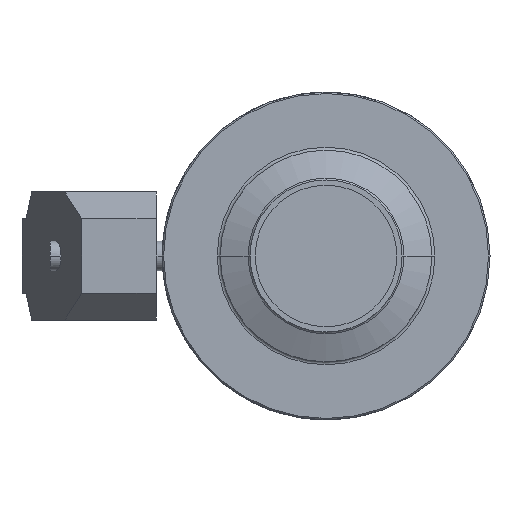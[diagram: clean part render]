
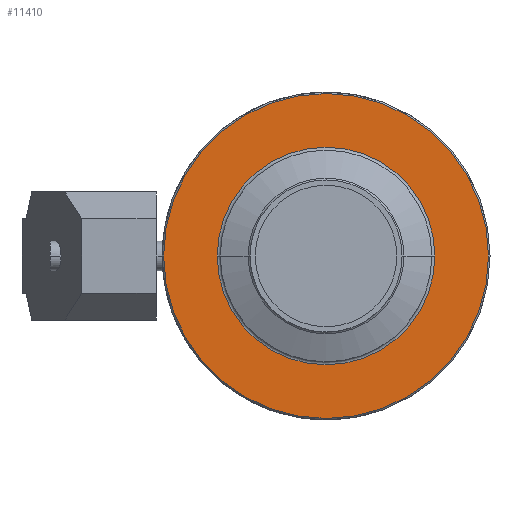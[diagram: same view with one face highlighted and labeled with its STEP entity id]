
A CAD part, left-side view. The second image highlights one B-rep face of the part: STEP entity #11410.
In plain terms, the highlighted planar face has unit normal (-1, 0, 0).
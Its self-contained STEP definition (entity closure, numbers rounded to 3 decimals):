
#10930=CARTESIAN_POINT('',(24.717,-50.188,0.));
#10940=VERTEX_POINT('',#10930);
#11020=CARTESIAN_POINT('',(24.717,58.812,
0.));
#11030=VERTEX_POINT('',#11020);
#11060=CARTESIAN_POINT('',(24.717,4.312,0.));
#11070=DIRECTION('',(1.,0.,0.));
#11080=DIRECTION('',(0.,1.,0.));
#11090=AXIS2_PLACEMENT_3D('',#11060,#11070,#11080);
#11100=CIRCLE('',#11090,54.5);
#11110=EDGE_CURVE('',#10940,#11030,#11100,.T.);
#11160=CARTESIAN_POINT('',(24.717,56.712,0.));
#11170=DIRECTION('',(-1.,0.,0.));
#11180=DIRECTION('',(0.,1.,0.));
#11190=AXIS2_PLACEMENT_3D('',#11160,#11170,#11180);
#11200=PLANE('',#11190);
#11210=CARTESIAN_POINT('',(24.717,4.312,0.));
#11220=DIRECTION('',(1.,0.,0.));
#11230=DIRECTION('',(0.,1.,0.));
#11240=AXIS2_PLACEMENT_3D('',#11210,#11220,#11230);
#11250=CIRCLE('',#11240,36.5);
#11260=CARTESIAN_POINT('',(24.717,40.812,0.));
#11270=VERTEX_POINT('',#11260);
#11280=CARTESIAN_POINT('',(24.717,-32.188,0.));
#11290=VERTEX_POINT('',#11280);
#11300=EDGE_CURVE('',#11270,#11290,#11250,.T.);
#11310=ORIENTED_EDGE('',*,*,#11300,.T.);
#11320=EDGE_CURVE('',#11290,#11270,#11250,.T.);
#11330=ORIENTED_EDGE('',*,*,#11320,.T.);
#11340=EDGE_LOOP('',(#11330,#11310));
#11350=FACE_BOUND('',#11340,.T.);
#11360=EDGE_CURVE('',#11030,#10940,#11100,.T.);
#11370=ORIENTED_EDGE('',*,*,#11360,.F.);
#11380=ORIENTED_EDGE('',*,*,#11110,.F.);
#11390=EDGE_LOOP('',(#11380,#11370));
#11400=FACE_OUTER_BOUND('',#11390,.T.);
#11410=ADVANCED_FACE('',(#11350,#11400),#11200,.T.);
